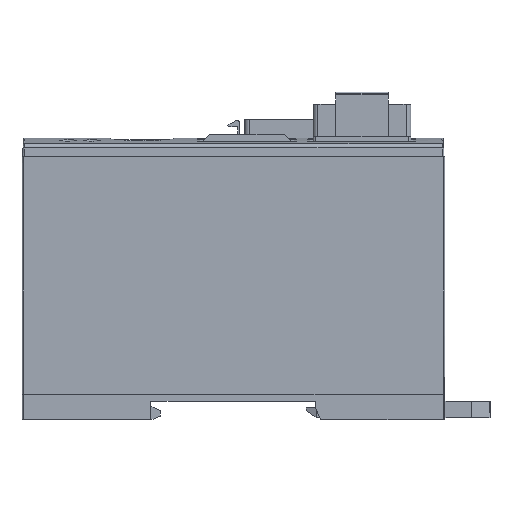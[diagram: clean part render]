
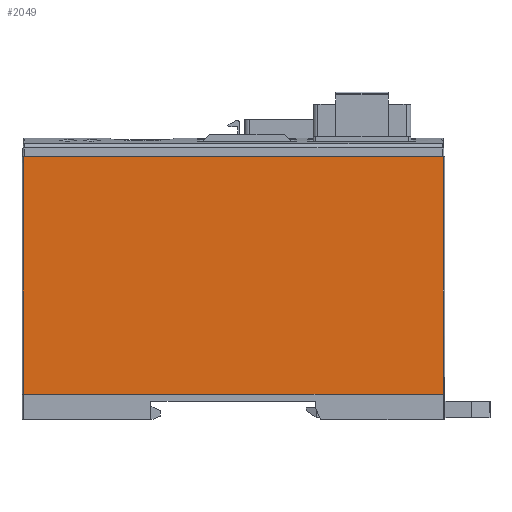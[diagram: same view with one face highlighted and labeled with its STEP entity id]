
A CAD part, left-side view. The second image highlights one B-rep face of the part: STEP entity #2049.
In plain terms, the highlighted planar face has unit normal (-1, 0, 0).
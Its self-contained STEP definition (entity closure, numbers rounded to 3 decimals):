
#622 = LINE ( 'NONE', #10448, #6007 ) ;
#646 = DIRECTION ( 'NONE',  ( 0., 0., -1. ) ) ;
#907 = CARTESIAN_POINT ( 'NONE',  ( -20.181, -45.465, 114.023 ) ) ;
#925 = ORIENTED_EDGE ( 'NONE', *, *, #15054, .F. ) ;
#2049 = ADVANCED_FACE ( 'NONE', ( #8904 ), #2861, .F. ) ;
#2330 = VECTOR ( 'NONE', #3145, 1000. ) ;
#2736 = CARTESIAN_POINT ( 'NONE',  ( -20.181, 44.235, 114.023 ) ) ;
#2824 = DIRECTION ( 'NONE',  ( 1., 0., 0. ) ) ;
#2861 = PLANE ( 'NONE',  #3317 ) ;
#3145 = DIRECTION ( 'NONE',  ( 0., 1., 0. ) ) ;
#3247 = ORIENTED_EDGE ( 'NONE', *, *, #5131, .F. ) ;
#3317 = AXIS2_PLACEMENT_3D ( 'NONE', #5154, #2824, #646 ) ;
#3415 = VERTEX_POINT ( 'NONE', #7065 ) ;
#5131 = EDGE_CURVE ( 'NONE', #3415, #11794, #23052, .T. ) ;
#5154 = CARTESIAN_POINT ( 'NONE',  ( -20.181, -45.465, 114.023 ) ) ;
#6007 = VECTOR ( 'NONE', #12464, 1000. ) ;
#6990 = LINE ( 'NONE', #21975, #11706 ) ;
#7065 = CARTESIAN_POINT ( 'NONE',  ( -20.181, -45.165, 63.523 ) ) ;
#7756 = VERTEX_POINT ( 'NONE', #19423 ) ;
#8904 = FACE_OUTER_BOUND ( 'NONE', #13006, .T. ) ;
#10448 = CARTESIAN_POINT ( 'NONE',  ( -20.181, -45.165, 114.023 ) ) ;
#10966 = DIRECTION ( 'NONE',  ( 0., -1., 0. ) ) ;
#11706 = VECTOR ( 'NONE', #16079, 1000. ) ;
#11794 = VERTEX_POINT ( 'NONE', #13475 ) ;
#12464 = DIRECTION ( 'NONE',  ( 0., 0., 1. ) ) ;
#13006 = EDGE_LOOP ( 'NONE', ( #3247, #17402, #925, #23263 ) ) ;
#13475 = CARTESIAN_POINT ( 'NONE',  ( -20.181, 44.235, 63.523 ) ) ;
#15054 = EDGE_CURVE ( 'NONE', #24890, #7756, #18112, .T. ) ;
#16079 = DIRECTION ( 'NONE',  ( 0., 0., -1. ) ) ;
#17402 = ORIENTED_EDGE ( 'NONE', *, *, #19748, .T. ) ;
#17874 = EDGE_CURVE ( 'NONE', #24890, #11794, #6990, .T. ) ;
#18112 = LINE ( 'NONE', #907, #21532 ) ;
#18304 = CARTESIAN_POINT ( 'NONE',  ( -20.181, -45.465, 63.523 ) ) ;
#19423 = CARTESIAN_POINT ( 'NONE',  ( -20.181, -45.165, 114.023 ) ) ;
#19748 = EDGE_CURVE ( 'NONE', #3415, #7756, #622, .T. ) ;
#21532 = VECTOR ( 'NONE', #10966, 1000. ) ;
#21975 = CARTESIAN_POINT ( 'NONE',  ( -20.181, 44.235, 114.023 ) ) ;
#23052 = LINE ( 'NONE', #18304, #2330 ) ;
#23263 = ORIENTED_EDGE ( 'NONE', *, *, #17874, .T. ) ;
#24890 = VERTEX_POINT ( 'NONE', #2736 ) ;
